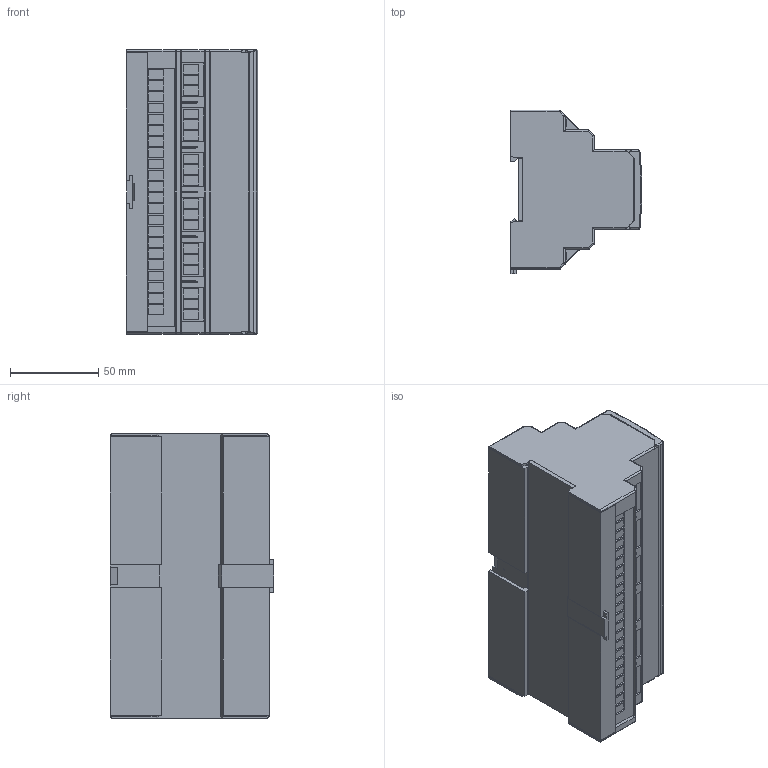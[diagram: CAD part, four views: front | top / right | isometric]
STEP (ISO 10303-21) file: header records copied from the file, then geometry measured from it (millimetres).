
FILE_DESCRIPTION(/* description */ (''),/* implementation_level */ '2;1');
FILE_NAME(/* name */ 'X:\Digidirect\CAD\Importierte Komponenten\XM490\XM490 24.stp',/* time_stamp */ '2013-10-10T08:42:20+02:00',/* author */ ('m.jost'),/* organization */ (''),/* preprocessor_version */ 'ST-DEVELOPER v15.2',/* originating_system */ 'Autodesk Inventor 2014',/* authorisation */ '');
FILE_SCHEMA (('CONFIG_CONTROL_DESIGN'));
Length unit declared in the file: millimetre
Products named in the file (2): XM490_Substitute_25; XM490
Bounding box: 74.39 x 92.7 x 161 mm (x, y, z)
Surface area: 118965.9 mm2 (no closed solid volume)
Topology: 0 solids, 12 shells, 1314 faces, 3529 edges, 2298 vertices
Faces by surface type: plane 973, cylinder 269, torus 36, sphere 16, bspline 12, cone 8
Full cylindrical faces by diameter (mm): 2 x2, 4.5 x2
Entity records: 43525 total; most frequent: CARTESIAN_POINT 9113, ORIENTED_EDGE 6970, DIRECTION 6633, EDGE_CURVE 3485, LINE 2799, VECTOR 2799, VERTEX_POINT 2288, AXIS2_PLACEMENT_3D 1917
